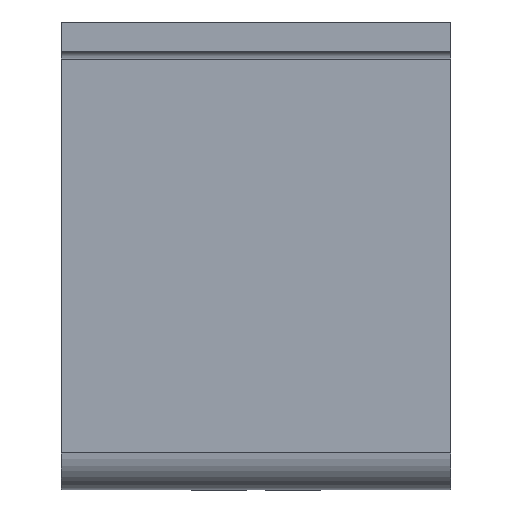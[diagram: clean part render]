
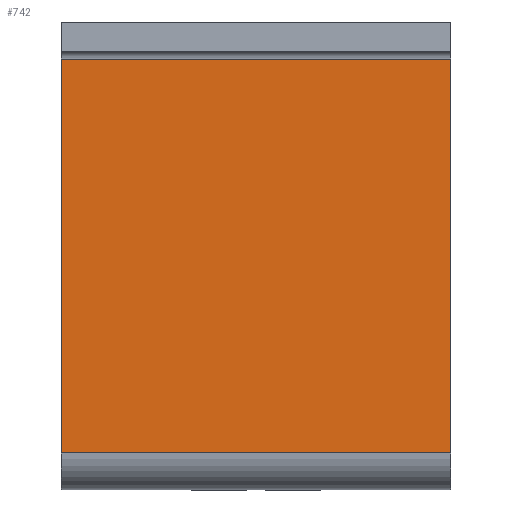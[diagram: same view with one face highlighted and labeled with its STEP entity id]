
A CAD part, left-side view. The second image highlights one B-rep face of the part: STEP entity #742.
In plain terms, the highlighted planar face has unit normal (-1, 0, 0).
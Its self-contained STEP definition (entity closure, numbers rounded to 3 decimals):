
#35=PLANE('',#812);
#103=LINE('',#1211,#179);
#104=LINE('',#1213,#180);
#105=LINE('',#1215,#181);
#106=LINE('',#1216,#182);
#179=VECTOR('',#994,40.);
#180=VECTOR('',#995,40.4);
#181=VECTOR('',#996,40.);
#182=VECTOR('',#997,40.4);
#238=FACE_OUTER_BOUND('',#289,.T.);
#289=EDGE_LOOP('',(#622,#623,#624,#625));
#379=VERTEX_POINT('',#1204);
#380=VERTEX_POINT('',#1210);
#381=VERTEX_POINT('',#1212);
#382=VERTEX_POINT('',#1214);
#468=EDGE_CURVE('',#380,#379,#103,.T.);
#469=EDGE_CURVE('',#381,#380,#104,.T.);
#470=EDGE_CURVE('',#381,#382,#105,.T.);
#471=EDGE_CURVE('',#379,#382,#106,.T.);
#622=ORIENTED_EDGE('',*,*,#468,.F.);
#623=ORIENTED_EDGE('',*,*,#469,.F.);
#624=ORIENTED_EDGE('',*,*,#470,.T.);
#625=ORIENTED_EDGE('',*,*,#471,.F.);
#742=ADVANCED_FACE('',(#238),#35,.F.);
#812=AXIS2_PLACEMENT_3D('',#1209,#992,#993);
#992=DIRECTION('center_axis',(1.,0.,0.));
#993=DIRECTION('ref_axis',(0.,0.,-1.));
#994=DIRECTION('',(0.,1.,0.));
#995=DIRECTION('',(0.,0.,-1.));
#996=DIRECTION('',(0.,1.,0.));
#997=DIRECTION('',(0.,0.,1.));
#1204=CARTESIAN_POINT('',(-24.,20.,-44.2));
#1209=CARTESIAN_POINT('Origin',(-24.,0.,
-66.75));
#1210=CARTESIAN_POINT('',(-24.,-20.,-44.2));
#1211=CARTESIAN_POINT('',(-24.,0.,-44.2));
#1212=CARTESIAN_POINT('',(-24.,-20.,-3.8));
#1213=CARTESIAN_POINT('',(-24.,-20.,-132.05));
#1214=CARTESIAN_POINT('',(-24.,20.,-3.8));
#1215=CARTESIAN_POINT('',(-24.,0.,-3.8));
#1216=CARTESIAN_POINT('',(-24.,20.,24.75));
